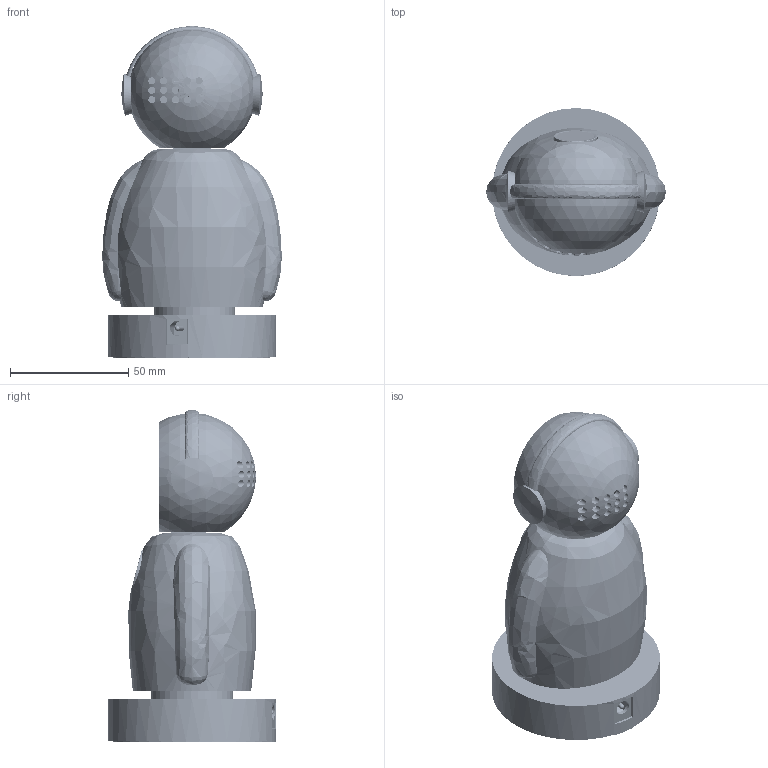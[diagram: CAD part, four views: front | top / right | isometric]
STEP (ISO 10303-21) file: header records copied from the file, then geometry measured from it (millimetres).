
FILE_DESCRIPTION(('HOOPS Exchange Step'),'2;1');
FILE_NAME('/Users/yunhaoxia/Library/Containers/com.shapr3d.shapr/Data/tmp/export/temp_export','2026-07-06T12:55:36+08:00',('yunhaoxia'),('Shapr3D Limited'),'HOOPS Exchange 2026.3','Shapr3D','Authorized');
FILE_SCHEMA( ('AP242_MANAGED_MODEL_BASED_3D_ENGINEERING_MIM_LF {1 0 10303 442 1 1 4}') );
Length unit declared in the file: millimetre
Products named in the file (2360): 铜柱M2.5x7+4; 铜柱M2.5x7+3; 直流无刷电机2804-定子; 2804线圈; 转子轴; 转子磁铁; 转子壳; 2804电机转子组件; 直流无刷电机2804-径向磁铁; 轴用卡簧8; MZ128ZZ深沟球轴承; 2804电机; H0146Y003T001-V1; ESP32-S3-TOUCH-LCD-1_46-PCB; TYPE-C_16PIN-9X3X7_3; BOARD; USER_LIBRARY-RES_0603-0201_1; USER_LIBRARY-RES_0603-0201_2; USER_LIBRARY-RES_0603-0201_3; USER_LIBRARY-RES_0603-0201_4; USER_LIBRARY-RES_0603-0201; R9; R4; R3; USER_LIBRARY-0201_0603M__CAP_1; USER_LIBRARY-0201_0603M__CAP_2; USER_LIBRARY-0201_0603M__CAP_3; USER_LIBRARY-0201_0603M__CAP; C1; C2; C3; C4; 2_1_200; _1_1_20001; 3_1_2_A; C_0603-683_AF0_ASM; C_0603-7177_AF0_ASM; C_0603; C5; _1_10001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
Assembly tree (2359 placements, depth 10):
  root
    2804电机
      铜柱M2.5x7+4
      铜柱M2.5x7+4
      铜柱M2.5x7+4
      铜柱M2.5x7+3
      铜柱M2.5x7+3
      直流无刷电机2804-定子
      2804线圈
      2804电机转子组件
        转子轴
        转子磁铁
        转子壳
      直流无刷电机2804-径向磁铁
      轴用卡簧8
      MZ128ZZ深沟球轴承
      铜柱M2.5x7+3
      MZ128ZZ深沟球轴承
      铜柱M2.5x7+3
      铜柱M2.5x7+4
    ESP32-S3-Touch-LCD-1_46.stp
      H0146Y003T001-V1
      ESP32-S3-TOUCH-LCD-1_46-PCBA
        ESP32-S3-TOUCH-LCD-1_46-PCB
        TYPE-C_16PIN-9X3X7_3
        ESP32-S3-LCD-1_46-PCBA-20240906
          PCB
            BOARD
            R9
              USER_LIBRARY-RES_0603-0201
                USER_LIBRARY-RES_0603-0201_1
                USER_LIBRARY-RES_0603-0201_2
                USER_LIBRARY-RES_0603-0201_3
                USER_LIBRARY-RES_0603-0201_4
            R4
              USER_LIBRARY-RES_0603-0201
                USER_LIBRARY-RES_0603-0201_1
                USER_LIBRARY-RES_0603-0201_2
                USER_LIBRARY-RES_0603-0201_3
                USER_LIBRARY-RES_0603-0201_4
            R3
              USER_LIBRARY-RES_0603-0201
                USER_LIBRARY-RES_0603-0201_1
                USER_LIBRARY-RES_0603-0201_2
                USER_LIBRARY-RES_0603-0201_3
                USER_LIBRARY-RES_0603-0201_4
            C1
              USER_LIBRARY-0201_0603M__CAP
                USER_LIBRARY-0201_0603M__CAP_1
                USER_LIBRARY-0201_0603M__CAP_2
                USER_LIBRARY-0201_0603M__CAP_3
            C2
              USER_LIBRARY-0201_0603M__CAP
                USER_LIBRARY-0201_0603M__CAP_1
                USER_LIBRARY-0201_0603M__CAP_2
                USER_LIBRARY-0201_0603M__CAP_3
            C3
              USER_LIBRARY-0201_0603M__CAP
                USER_LIBRARY-0201_0603M__CAP_1
                USER_LIBRARY-0201_0603M__CAP_2
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Bounding box: 75.98 x 71 x 140.4 mm (x, y, z)
Volume: 117219.2 mm3; surface area: 126086.7 mm2
Topology: 1230 solids, 1236 shells, 43465 faces, 111189 edges, 70071 vertices
Faces by surface type: plane 27430, cylinder 8884, extrusion 4270, sphere 1754, bspline 921, cone 105, torus 84, offset 17
Full cylindrical faces by diameter (mm): 0.13 x1, 0.197 x2, 0.2 x1, 0.254 x29, 0.3 x3, 0.33 x6, 0.35 x2, 0.4 x1, 0.406 x8, 0.5 x35, 0.6 x8, 0.65 x2, 0.7 x5, 0.73 x6, 0.762 x2, 0.8 x4, 1 x5, 1.016 x32, 1.024 x1, 1.48 x14, 1.5 x2, 1.567 x2, 1.72 x1, 1.8 x2, 1.86 x1, 2 x43, 2.05 x10, 2.1 x3, 2.2 x1, 2.25 x3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
Entity records: 1584403 total; most frequent: CARTESIAN_POINT 492982, ORIENTED_EDGE 219045, DIRECTION 204755, EDGE_CURVE 109526, VECTOR 85499, LINE 81229, VERTEX_POINT 70067, AXIS2_PLACEMENT_3D 59628
